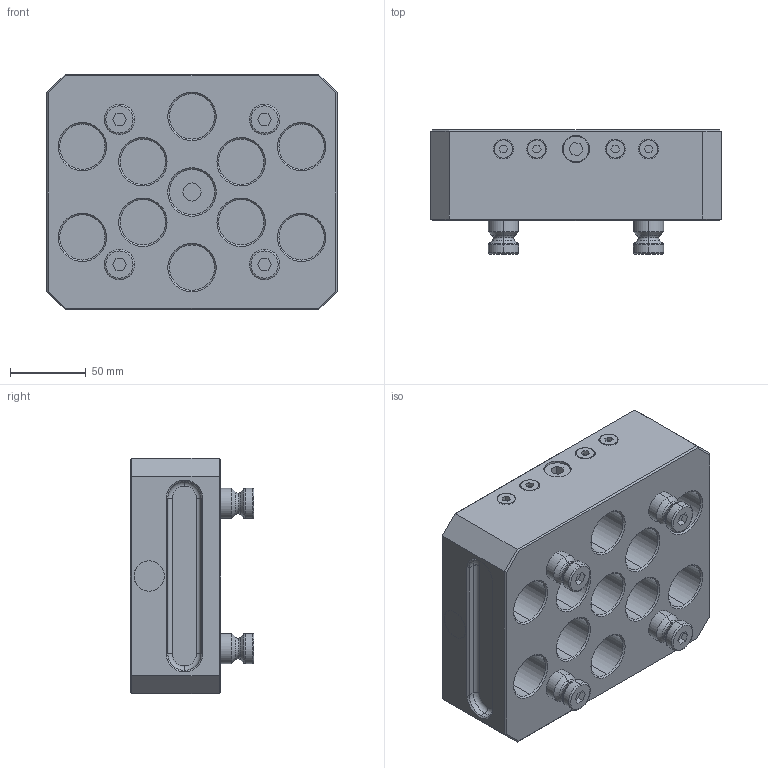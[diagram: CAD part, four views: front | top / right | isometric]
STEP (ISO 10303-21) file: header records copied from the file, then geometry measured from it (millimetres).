
FILE_DESCRIPTION (( 'STEP AP214' ), '1' );
FILE_NAME ('45486.STEP', '2022-06-01T07:00:06', ( '' ), ( '' ), 'SwSTEP 2.0', 'SolidWorks 2021', '' );
FILE_SCHEMA (( 'AUTOMOTIVE_DESIGN' ));
Length unit declared in the file: millimetre
Products named in the file (1): 45486
Bounding box: 192 x 82 x 156 mm (x, y, z)
Volume: 1334208.9 mm3; surface area: 194900.9 mm2
Topology: 17 solids, 17 shells, 539 faces, 1223 edges, 732 vertices
Faces by surface type: plane 191, cylinder 174, cone 118, torus 56
Entity records: 23228 total; most frequent: CARTESIAN_POINT 4841, DIRECTION 2695, ORIENTED_EDGE 2414, EDGE_CURVE 1207, AXIS2_PLACEMENT_3D 1034, VERTEX_POINT 732, LINE 627, VECTOR 627
